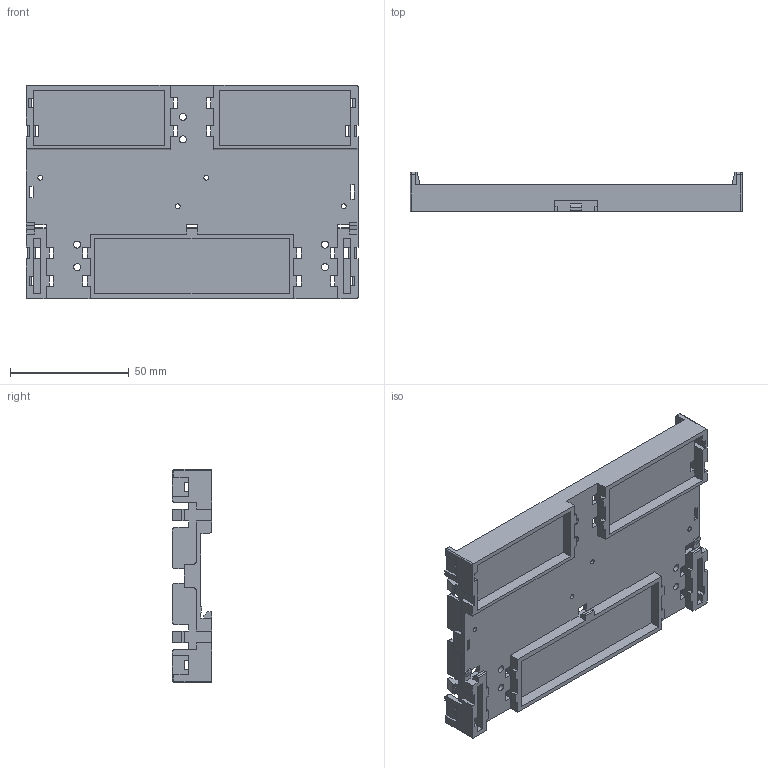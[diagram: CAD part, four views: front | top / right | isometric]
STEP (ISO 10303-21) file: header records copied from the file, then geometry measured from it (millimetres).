
FILE_DESCRIPTION (( 'STEP AP214' ), '1' );
FILE_NAME ('12380-1901-00_3D.STEP', '2018-04-23T12:45:21', ( '' ), ( '' ), 'SwSTEP 2.0', 'SolidWorks 2018', '' );
FILE_SCHEMA (( 'AUTOMOTIVE_DESIGN' ));
Length unit declared in the file: millimetre
Products named in the file (2): 12380-1901-00_3D; Kopie von V8_Unterteil^12380-1901-00_3D
Assembly tree (1 placements, depth 2):
  12380-1901-00_3D
    Kopie von V8_Unterteil^12380-1901-00_3D
Bounding box: 140 x 16.5 x 90 mm (x, y, z)
Volume: 37316.1 mm3; surface area: 39336.9 mm2
Topology: 1 solids, 1 shells, 410 faces, 1297 edges, 857 vertices
Faces by surface type: plane 357, cylinder 49, torus 4
Full cylindrical faces by diameter (mm): 2 x4, 3 x6, 4.5 x4
Entity records: 14271 total; most frequent: ORIENTED_EDGE 2566, CARTESIAN_POINT 2554, DIRECTION 2213, EDGE_CURVE 1283, VECTOR 1181, LINE 1181, VERTEX_POINT 857, AXIS2_PLACEMENT_3D 516
